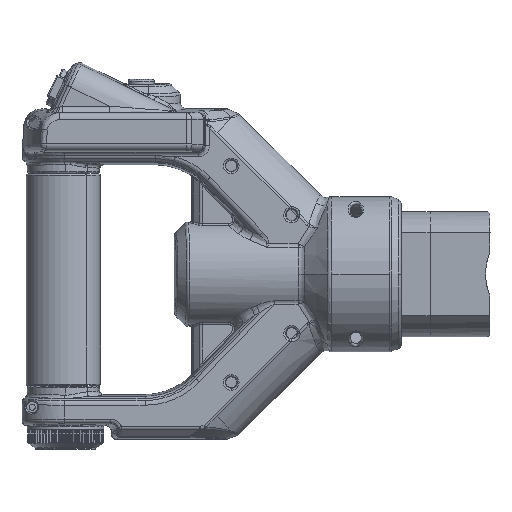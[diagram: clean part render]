
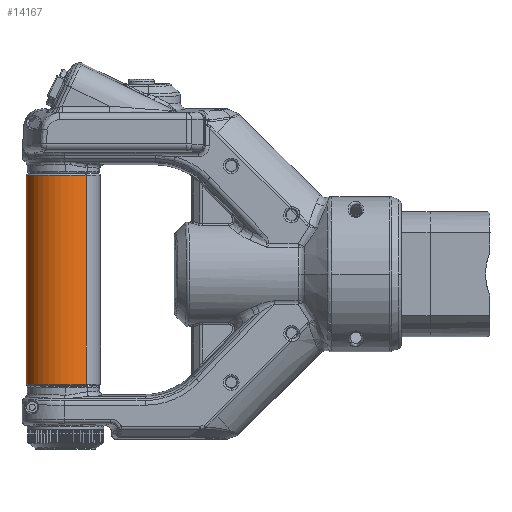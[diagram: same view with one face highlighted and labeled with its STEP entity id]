
A CAD part, left-side view. The second image highlights one B-rep face of the part: STEP entity #14167.
In plain terms, the highlighted cylindrical face has radius 17.645 mm (diameter 35.29 mm), a partial arc.
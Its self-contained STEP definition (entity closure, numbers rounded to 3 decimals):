
#2694 = CARTESIAN_POINT ( 'NONE',  ( -37.683, 241.566, 33.248 ) ) ;
#2695 = CARTESIAN_POINT ( 'NONE',  ( -52.752, 214.741, 33.248 ) ) ;
#2699 = CARTESIAN_POINT ( 'NONE',  ( -52.752, 214.741, -60.196 ) ) ;
#2704 = CARTESIAN_POINT ( 'NONE',  ( -37.683, 241.566, -60.196 ) ) ;
#2711 = VERTEX_POINT ( 'NONE', #2704 ) ;
#2716 = VERTEX_POINT ( 'NONE', #2699 ) ;
#2720 = VERTEX_POINT ( 'NONE', #2695 ) ;
#2721 = VERTEX_POINT ( 'NONE', #2694 ) ;
#3856 = AXIS2_PLACEMENT_3D ( 'NONE', #49214, #49221, #49222 ) ;
#3858 = AXIS2_PLACEMENT_3D ( 'NONE', #49204, #49215, #49216 ) ;
#4628 = EDGE_LOOP ( 'NONE', ( #39539, #39540, #39541, #39542 ) ) ;
#13226 = CIRCLE ( 'NONE', #3856, 17.645 ) ;
#13229 = CIRCLE ( 'NONE', #3858, 17.645 ) ;
#13243 = VECTOR ( 'NONE', #49157, 1000. ) ;
#13245 = LINE ( 'NONE', #49156, #13243 ) ;
#13246 = LINE ( 'NONE', #49150, #13247 ) ;
#13247 = VECTOR ( 'NONE', #49151, 1000. ) ;
#14167 = ADVANCED_FACE ( 'NONE', ( #39077 ), #39068, .T. ) ;
#17667 = AXIS2_PLACEMENT_3D ( 'NONE', #23026, #23024, #22756 ) ;
#22756 = DIRECTION ( 'NONE',  ( 1., 0., 0. ) ) ;
#23024 = DIRECTION ( 'NONE',  ( 0., 0., 1. ) ) ;
#23026 = CARTESIAN_POINT ( 'NONE',  ( -37.683, 223.921, -60.696 ) ) ;
#39068 = CYLINDRICAL_SURFACE ( 'NONE', #17667, 17.645 ) ;
#39077 = FACE_OUTER_BOUND ( 'NONE', #4628, .T. ) ;
#39539 = ORIENTED_EDGE ( 'NONE', *, *, #42194, .T. ) ;
#39540 = ORIENTED_EDGE ( 'NONE', *, *, #42219, .T. ) ;
#39541 = ORIENTED_EDGE ( 'NONE', *, *, #42197, .F. ) ;
#39542 = ORIENTED_EDGE ( 'NONE', *, *, #42222, .T. ) ;
#42194 = EDGE_CURVE ( 'NONE', #2716, #2720, #13246, .T. ) ;
#42197 = EDGE_CURVE ( 'NONE', #2711, #2721, #13245, .T. ) ;
#42219 = EDGE_CURVE ( 'NONE', #2720, #2721, #13229, .T. ) ;
#42222 = EDGE_CURVE ( 'NONE', #2711, #2716, #13226, .T. ) ;
#49150 = CARTESIAN_POINT ( 'NONE',  ( -52.752, 214.741, -60.696 ) ) ;
#49151 = DIRECTION ( 'NONE',  ( 0., 0., 1. ) ) ;
#49156 = CARTESIAN_POINT ( 'NONE',  ( -37.683, 241.566, -60.696 ) ) ;
#49157 = DIRECTION ( 'NONE',  ( 0., 0., 1. ) ) ;
#49204 = CARTESIAN_POINT ( 'NONE',  ( -37.683, 223.921, 33.248 ) ) ;
#49214 = CARTESIAN_POINT ( 'NONE',  ( -37.683, 223.921, -60.196 ) ) ;
#49215 = DIRECTION ( 'NONE',  ( 0., 0., -1. ) ) ;
#49216 = DIRECTION ( 'NONE',  ( 0., -1., 0. ) ) ;
#49221 = DIRECTION ( 'NONE',  ( 0., 0., 1. ) ) ;
#49222 = DIRECTION ( 'NONE',  ( 0., -1., 0. ) ) ;
